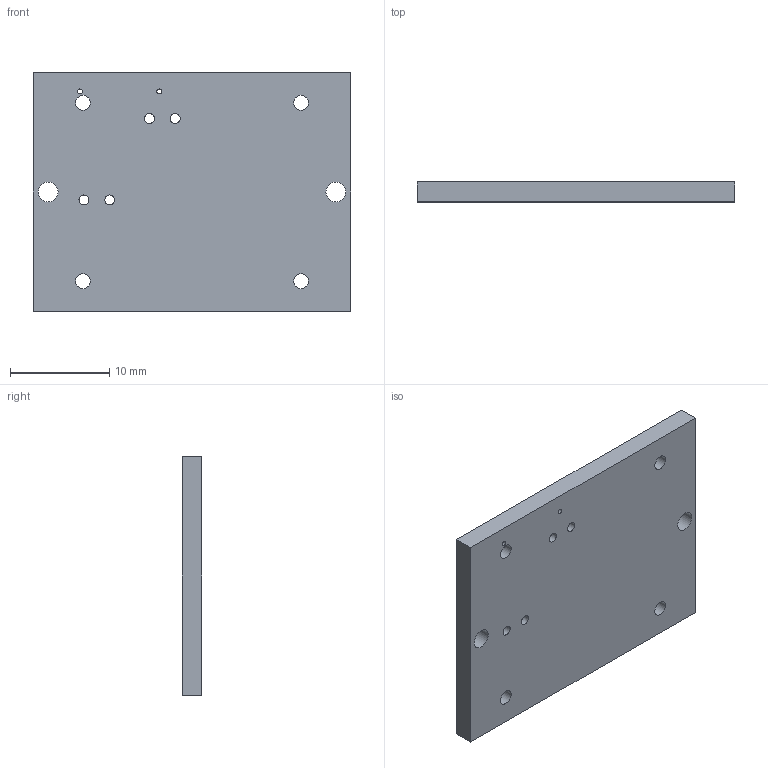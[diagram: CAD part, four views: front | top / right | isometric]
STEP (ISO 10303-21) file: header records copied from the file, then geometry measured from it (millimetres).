
FILE_DESCRIPTION(/* description */ (''),/* implementation_level */ '2;1');
FILE_NAME(/* name */ 'PCBletter.step',/* time_stamp */ '2026-06-27T03:53:19+02:00',/* author */ (''),/* organization */ (''),/* preprocessor_version */ 'ST-DEVELOPER v20.1',/* originating_system */ 'Autodesk Translation Framework v15.8.0.0',/* authorisation */ '');
FILE_SCHEMA (('AUTOMOTIVE_DESIGN { 1 0 10303 214 3 1 1 }'));
Length unit declared in the file: millimetre
Products named in the file (2): 2026-06-27-03-53-19-892; 2026-06-27-03-53-19-893
Assembly tree (1 placements, depth 2):
  2026-06-27-03-53-19-892
    2026-06-27-03-53-19-893
Bounding box: 32 x 2 x 24 mm (x, y, z)
Volume: 1502.2 mm3; surface area: 1820.5 mm2
Topology: 1 solids, 1 shells, 18 faces, 48 edges, 32 vertices
Faces by surface type: cylinder 12, plane 6
Full cylindrical faces by diameter (mm): 0.5 x2, 1 x4, 1.5 x4, 2 x2
Entity records: 685 total; most frequent: DIRECTION 114, CARTESIAN_POINT 101, ORIENTED_EDGE 96, EDGE_CURVE 48, AXIS2_PLACEMENT_3D 45, EDGE_LOOP 42, VERTEX_POINT 32, FACE_BOUND 24
